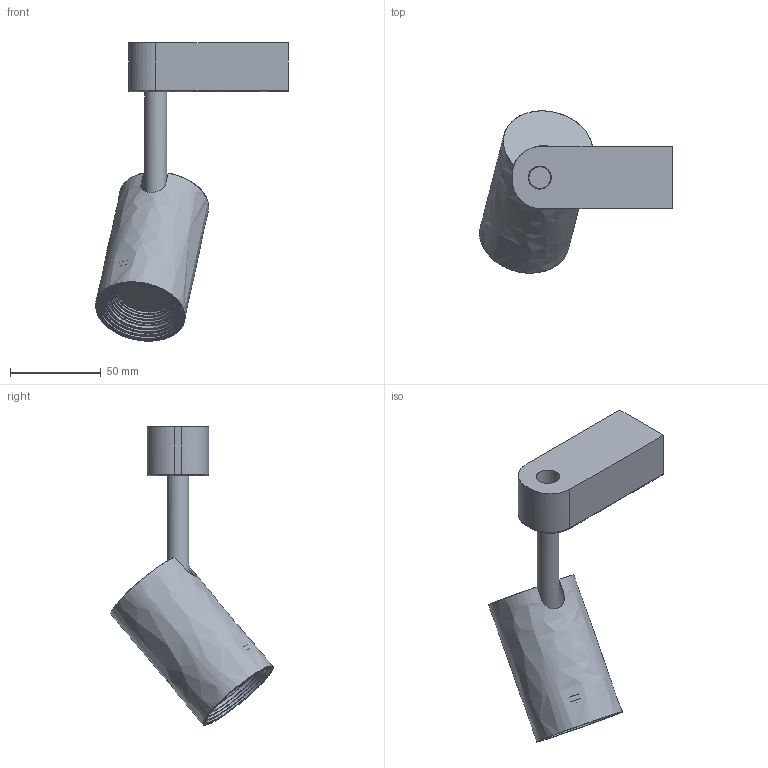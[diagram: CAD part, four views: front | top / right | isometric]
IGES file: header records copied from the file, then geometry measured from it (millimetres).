
Start section: SolidWorks IGES file using NURBS representation for surfaces
Global section: file name: Z:\Modele 3D_WWW\_KOLEKCJE WWW\PROFILE SYSTEM\PROFILE-IRIS-LED\PROFILE-IRIS-LED-7W-8995-8997-8996-8998\PROFILE-IRIS-LED-7W-8995-8997-8996-8998.IGS; native system: SolidWorks 2021; preprocessor: SolidWorks 2021; author: gabriela.tworek; date: 220203.113508; units: millimetre
Bounding box: 106.15 x 89.33 x 164.15 mm (x, y, z)
Surface area: 52254.8 mm2 (no closed solid volume)
Topology: 0 solids, 0 shells, 53 faces, 246 edges, 230 vertices
Faces by surface type: bspline 53
